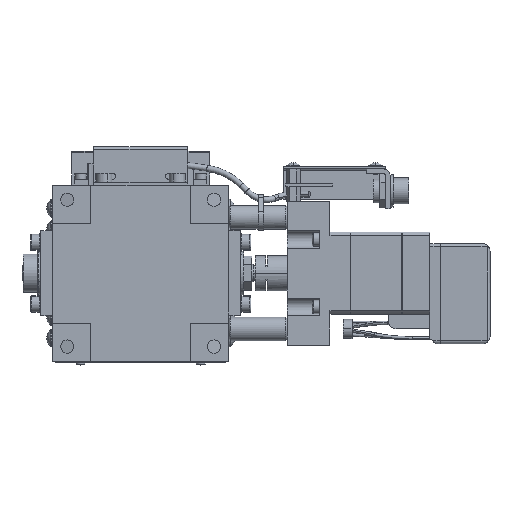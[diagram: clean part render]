
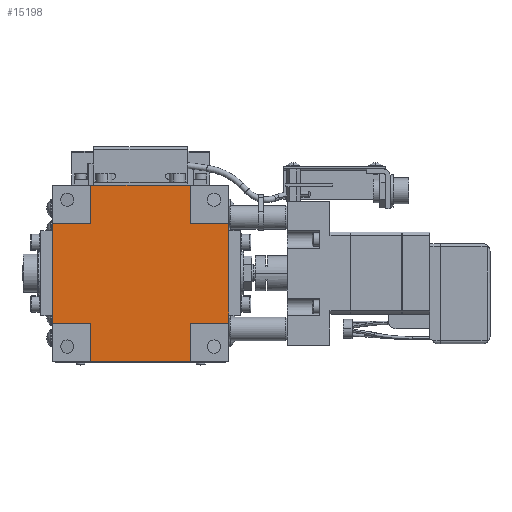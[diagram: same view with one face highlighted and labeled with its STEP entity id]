
A CAD part, front view. The second image highlights one B-rep face of the part: STEP entity #15198.
In plain terms, the highlighted planar face has unit normal (0, -1, 0).
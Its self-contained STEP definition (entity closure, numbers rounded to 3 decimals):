
#106 = CARTESIAN_POINT ( 'NONE',  ( 17., 0.3, 30. ) ) ;
#513 = DIRECTION ( 'NONE',  ( 0., 0., 1. ) ) ;
#802 = EDGE_CURVE ( 'NONE', #11193, #14838, #10769, .T. ) ;
#806 = ORIENTED_EDGE ( 'NONE', *, *, #31755, .T. ) ;
#918 = LINE ( 'NONE', #22192, #27289 ) ;
#1762 = LINE ( 'NONE', #17173, #26858 ) ;
#1847 = LINE ( 'NONE', #31282, #8560 ) ;
#1966 = DIRECTION ( 'NONE',  ( 0., 0., 1. ) ) ;
#2738 = CARTESIAN_POINT ( 'NONE',  ( 17., 0.3, -30. ) ) ;
#3120 = VERTEX_POINT ( 'NONE', #106 ) ;
#3747 = VECTOR ( 'NONE', #513, 1000. ) ;
#3799 = EDGE_CURVE ( 'NONE', #14615, #11699, #21481, .T. ) ;
#4608 = PLANE ( 'NONE',  #22704 ) ;
#4734 = VECTOR ( 'NONE', #26939, 1000. ) ;
#5021 = EDGE_CURVE ( 'NONE', #19984, #14451, #8413, .T. ) ;
#5037 = VECTOR ( 'NONE', #24697, 1000. ) ;
#5404 = DIRECTION ( 'NONE',  ( 0., 0., -1. ) ) ;
#5648 = EDGE_CURVE ( 'NONE', #8840, #3120, #31358, .T. ) ;
#6011 = CARTESIAN_POINT ( 'NONE',  ( 17., 0.3, 17. ) ) ;
#6594 = VECTOR ( 'NONE', #26359, 1000. ) ;
#7028 = FACE_OUTER_BOUND ( 'NONE', #17012, .T. ) ;
#7653 = CARTESIAN_POINT ( 'NONE',  ( -17., 0.3, 30. ) ) ;
#7856 = CARTESIAN_POINT ( 'NONE',  ( 17., 0.3, -17. ) ) ;
#8349 = DIRECTION ( 'NONE',  ( 0., 0., -1. ) ) ;
#8413 = LINE ( 'NONE', #7856, #16797 ) ;
#8525 = VERTEX_POINT ( 'NONE', #33151 ) ;
#8560 = VECTOR ( 'NONE', #1966, 1000. ) ;
#8840 = VERTEX_POINT ( 'NONE', #10975 ) ;
#8875 = DIRECTION ( 'NONE',  ( 0., 0., -1. ) ) ;
#9703 = DIRECTION ( 'NONE',  ( 1., 0., 0. ) ) ;
#9766 = ORIENTED_EDGE ( 'NONE', *, *, #5021, .T. ) ;
#10036 = CARTESIAN_POINT ( 'NONE',  ( -17., 0.3, 17. ) ) ;
#10161 = VECTOR ( 'NONE', #5404, 1000. ) ;
#10434 = DIRECTION ( 'NONE',  ( -1., 0., 0. ) ) ;
#10769 = LINE ( 'NONE', #26941, #20787 ) ;
#10975 = CARTESIAN_POINT ( 'NONE',  ( 17., 0.3, 17. ) ) ;
#11193 = VERTEX_POINT ( 'NONE', #12665 ) ;
#11664 = LINE ( 'NONE', #12534, #14211 ) ;
#11699 = VERTEX_POINT ( 'NONE', #10036 ) ;
#12534 = CARTESIAN_POINT ( 'NONE',  ( -30., 0.3, -17. ) ) ;
#12665 = CARTESIAN_POINT ( 'NONE',  ( -17., 0.3, -17. ) ) ;
#13522 = CARTESIAN_POINT ( 'NONE',  ( -30., 0.3, 17. ) ) ;
#13749 = EDGE_CURVE ( 'NONE', #14451, #8525, #17152, .T. ) ;
#14211 = VECTOR ( 'NONE', #9703, 1000. ) ;
#14390 = VERTEX_POINT ( 'NONE', #17151 ) ;
#14451 = VERTEX_POINT ( 'NONE', #19486 ) ;
#14615 = VERTEX_POINT ( 'NONE', #18432 ) ;
#14838 = VERTEX_POINT ( 'NONE', #16564 ) ;
#15198 = ADVANCED_FACE ( 'NONE', ( #7028 ), #4608, .F. ) ;
#15210 = EDGE_CURVE ( 'NONE', #8525, #8840, #23305, .T. ) ;
#15557 = ORIENTED_EDGE ( 'NONE', *, *, #23665, .T. ) ;
#15606 = DIRECTION ( 'NONE',  ( 0., 1., 0. ) ) ;
#15776 = ORIENTED_EDGE ( 'NONE', *, *, #24434, .T. ) ;
#15810 = ORIENTED_EDGE ( 'NONE', *, *, #5648, .T. ) ;
#16521 = CARTESIAN_POINT ( 'NONE',  ( 30., 0.3, 17. ) ) ;
#16564 = CARTESIAN_POINT ( 'NONE',  ( -17., 0.3, -30. ) ) ;
#16669 = LINE ( 'NONE', #7653, #6594 ) ;
#16797 = VECTOR ( 'NONE', #26914, 1000. ) ;
#17012 = EDGE_LOOP ( 'NONE', ( #9766, #34096, #27058, #15810, #806, #18113, #15776, #25671, #23550, #19147, #23616, #15557 ) ) ;
#17151 = CARTESIAN_POINT ( 'NONE',  ( -30., 0.3, -17. ) ) ;
#17152 = LINE ( 'NONE', #16521, #3747 ) ;
#17173 = CARTESIAN_POINT ( 'NONE',  ( -17., 0.3, -30. ) ) ;
#18113 = ORIENTED_EDGE ( 'NONE', *, *, #3799, .T. ) ;
#18368 = CARTESIAN_POINT ( 'NONE',  ( -17., 0.3, 17. ) ) ;
#18432 = CARTESIAN_POINT ( 'NONE',  ( -17., 0.3, 30. ) ) ;
#19147 = ORIENTED_EDGE ( 'NONE', *, *, #802, .T. ) ;
#19486 = CARTESIAN_POINT ( 'NONE',  ( 30., 0.3, -17. ) ) ;
#19984 = VERTEX_POINT ( 'NONE', #32429 ) ;
#20264 = VERTEX_POINT ( 'NONE', #30889 ) ;
#20446 = EDGE_CURVE ( 'NONE', #14390, #11193, #11664, .T. ) ;
#20787 = VECTOR ( 'NONE', #8349, 1000. ) ;
#21075 = DIRECTION ( 'NONE',  ( -1., 0., 0. ) ) ;
#21481 = LINE ( 'NONE', #18368, #10161 ) ;
#22192 = CARTESIAN_POINT ( 'NONE',  ( -30., 0.3, 17. ) ) ;
#22704 = AXIS2_PLACEMENT_3D ( 'NONE', #28798, #15606, #10434 ) ;
#23305 = LINE ( 'NONE', #31813, #33310 ) ;
#23550 = ORIENTED_EDGE ( 'NONE', *, *, #20446, .T. ) ;
#23616 = ORIENTED_EDGE ( 'NONE', *, *, #25206, .T. ) ;
#23665 = EDGE_CURVE ( 'NONE', #27170, #19984, #1847, .T. ) ;
#24434 = EDGE_CURVE ( 'NONE', #11699, #20264, #34371, .T. ) ;
#24697 = DIRECTION ( 'NONE',  ( 0., 0., 1. ) ) ;
#25159 = EDGE_CURVE ( 'NONE', #20264, #14390, #918, .T. ) ;
#25206 = EDGE_CURVE ( 'NONE', #14838, #27170, #1762, .T. ) ;
#25336 = DIRECTION ( 'NONE',  ( 1., 0., 0. ) ) ;
#25671 = ORIENTED_EDGE ( 'NONE', *, *, #25159, .T. ) ;
#26359 = DIRECTION ( 'NONE',  ( -1., 0., 0. ) ) ;
#26858 = VECTOR ( 'NONE', #25336, 1000. ) ;
#26914 = DIRECTION ( 'NONE',  ( 1., 0., 0. ) ) ;
#26939 = DIRECTION ( 'NONE',  ( -1., 0., 0. ) ) ;
#26941 = CARTESIAN_POINT ( 'NONE',  ( -17., 0.3, -30. ) ) ;
#27058 = ORIENTED_EDGE ( 'NONE', *, *, #15210, .T. ) ;
#27170 = VERTEX_POINT ( 'NONE', #2738 ) ;
#27289 = VECTOR ( 'NONE', #8875, 1000. ) ;
#28798 = CARTESIAN_POINT ( 'NONE',  ( 0., 0.3, 0. ) ) ;
#30889 = CARTESIAN_POINT ( 'NONE',  ( -30., 0.3, 17. ) ) ;
#31282 = CARTESIAN_POINT ( 'NONE',  ( 17., 0.3, -30. ) ) ;
#31358 = LINE ( 'NONE', #6011, #5037 ) ;
#31755 = EDGE_CURVE ( 'NONE', #3120, #14615, #16669, .T. ) ;
#31813 = CARTESIAN_POINT ( 'NONE',  ( 17., 0.3, 17. ) ) ;
#32429 = CARTESIAN_POINT ( 'NONE',  ( 17., 0.3, -17. ) ) ;
#33151 = CARTESIAN_POINT ( 'NONE',  ( 30., 0.3, 17. ) ) ;
#33310 = VECTOR ( 'NONE', #21075, 1000. ) ;
#34096 = ORIENTED_EDGE ( 'NONE', *, *, #13749, .T. ) ;
#34371 = LINE ( 'NONE', #13522, #4734 ) ;
